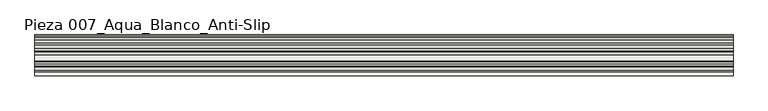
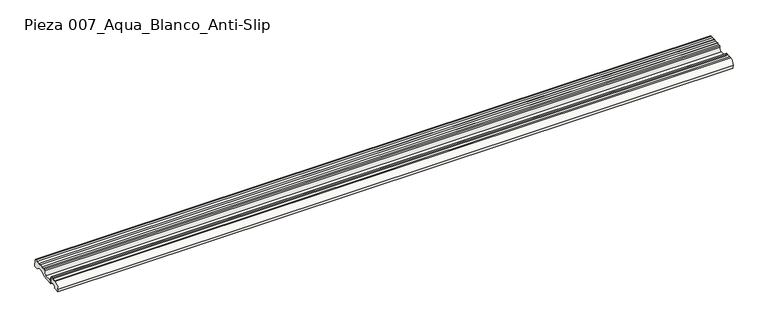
"""IFC4 building model written with IfcOpenShell, lengths in millimetres: slab geometry, ROSA GRES_007 : Pieza 007_Aqua_Blanco_Anti-Slip."""

from ifc_helpers import new_model, si_unit, point, frame, frame_2d, origin, place, context, project, spatial, polyline, circle_curve, trimmed, segment, composite_curve, outline, extrude, source, transform, mapped, element, save


def pieza_007_aqua_blanco_anti_slip_2c70ffc2(model_context):
    return source(origin(), model_context, "Body", "SweptSolid", [
        extrude(outline(composite_curve([segment(polyline([(14.3742659, 174.3159971), (0.6896004, 173.202129), (-0.0710994, 182.547869)]), True, "CONTINUOUS"), segment(trimmed(circle_curve(frame_2d((15.1536138, 183.7870899)), 15.2750633), [point((-0.0710994, 182.547869))], [point((12.7748841, 198.875801))], False, "CARTESIAN"), True, "CONTINUOUS"), segment(polyline([(12.7748841, 198.875801), (16.9364731, 199.1796191)]), True, "CONTINUOUS"), segment(trimmed(circle_curve(frame_2d((20.3008643, 202.7650351)), 4.9167404), [point((16.9364731, 199.1796191))], [point((24.7247274, 200.6193952))], True, "CARTESIAN"), True, "CONTINUOUS"), segment(trimmed(circle_curve(frame_2d((27.3971937, 201.142641)), 2.7232081), [point((24.7247274, 200.6193952))], [point((29.9345538, 200.1538709))], True, "CARTESIAN"), True, "CONTINUOUS"), segment(polyline([(29.9345538, 200.1538709), (33.8762309, 200.4746837), (37.1820416, 176.172444)]), True, "CONTINUOUS"), segment(trimmed(circle_curve(frame_2d((25.9545763, 173.0767428)), 11.6464304), [point((37.1820416, 176.172444))], [point((14.3742659, 174.3159971))], True, "CARTESIAN"), True, "CONTINUOUS")], self_intersect=False)), frame((0.0, 0.0, 0.0), z_axis=(1.0, 0.0, 0.0), x_axis=(0.0, 1.0, 0.0)), (0.0, 0.0, 1.0), 2030.0265886),
        extrude(outline(composite_curve([segment(polyline([(71.8498608, 178.9942432), (37.1820416, 176.172444), (33.8762309, 200.4746837)]), True, "CONTINUOUS"), segment(trimmed(circle_curve(frame_2d((106.9597263, 233.2212806)), 80.084561), [point((33.8762309, 200.4746837))], [point((40.9402045, 187.8896178))], True, "CARTESIAN"), True, "CONTINUOUS"), segment(trimmed(circle_curve(frame_2d((43.5817022, 189.3117604)), 3.0), [point((40.9402045, 187.8896178))], [point((43.8250834, 186.3216491))], True, "CARTESIAN"), True, "CONTINUOUS"), segment(polyline([(43.8250834, 186.3216491), (61.867532, 187.7902205)]), True, "CONTINUOUS"), segment(trimmed(circle_curve(frame_2d((57.0579989, 199.0821231)), 12.2734948), [point((61.867532, 187.7902205))], [point((69.3023399, 198.236672))], True, "CARTESIAN"), True, "CONTINUOUS"), segment(polyline([(69.3023399, 198.236672), (69.6579726, 203.3871621), (73.3820924, 203.6902881)]), True, "CONTINUOUS"), segment(trimmed(circle_curve(frame_2d((76.8218788, 206.722806)), 4.5856619), [point((73.3820924, 203.6902881))], [point((81.0271834, 204.8942251))], True, "CARTESIAN"), True, "CONTINUOUS"), segment(trimmed(circle_curve(frame_2d((84.8780848, 207.3839748)), 4.5856619), [point((81.0271834, 204.8942251))], [point((89.0833894, 205.555394))], True, "CARTESIAN"), True, "CONTINUOUS"), segment(trimmed(circle_curve(frame_2d((92.9342908, 208.0451437)), 4.5856619), [point((89.0833894, 205.555394))], [point((97.1292049, 206.1928503))], True, "CARTESIAN"), True, "CONTINUOUS"), segment(trimmed(circle_curve(frame_2d((100.9933064, 209.1504161)), 4.8660534), [point((97.1292049, 206.1928503))], [point((105.2742048, 206.836894))], True, "CARTESIAN"), True, "CONTINUOUS"), segment(trimmed(circle_curve(frame_2d((109.1074243, 209.7932705)), 4.8408403), [point((105.2742048, 206.836894))], [point((113.0660814, 207.0070959))], True, "CARTESIAN"), True, "CONTINUOUS"), segment(polyline([(113.0660814, 207.0070959), (115.3491545, 207.1930072), (115.5338707, 204.9236084), (117.4809059, 205.0820876), (119.2900344, 182.8556525), (108.342302, 181.9645582)]), True, "CONTINUOUS"), segment(trimmed(circle_curve(frame_2d((91.1625174, 167.3774726)), 22.5372595), [point((108.342302, 181.9645582))], [point((71.8498608, 178.9942432))], True, "CARTESIAN"), True, "CONTINUOUS")], self_intersect=False)), frame((0.0, 0.0, 0.0), z_axis=(1.0, 0.0, 0.0), x_axis=(0.0, 1.0, 0.0)), (0.0, 0.0, 1.0), 2030.0265886),
    ])


if __name__ == "__main__":
    model = new_model("IFC4")
    model_context = context("Model", 3, world=origin())
    ifc_project = project(units=[si_unit("LENGTHUNIT", "METRE", prefix="MILLI")], contexts=[model_context])
    site = spatial("IfcSite", under=ifc_project)
    building = spatial("IfcBuilding", under=site)
    placement = place(None, origin())
    pieza_007_aqua_blanco_anti_slip_shape = pieza_007_aqua_blanco_anti_slip_2c70ffc2(model_context)
    element("IfcSlab", 1, ObjectType="ROSA GRES_007 : Pieza 007_Aqua_Blanco_Anti-Slip", at=placement, inside=building, context=model_context, shape_type="MappedRepresentation", body=[
        mapped(pieza_007_aqua_blanco_anti_slip_shape, transform((0.0, 0.0, 0.0), x_axis=(1.0, 0.0, 0.0), y_axis=(0.0, 1.0, 0.0), z_axis=(0.0, 0.0, 1.0))),
    ])
    save(model, "model.ifc")
